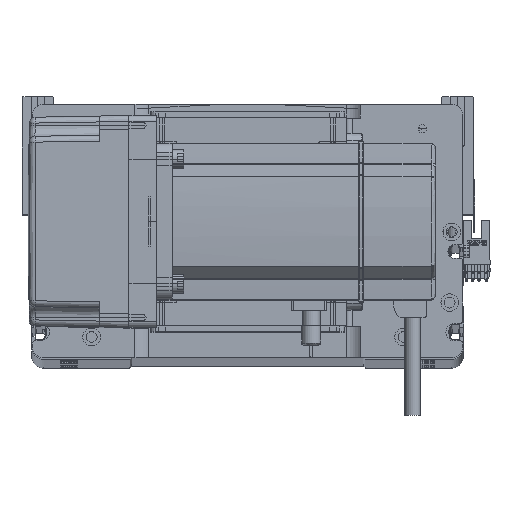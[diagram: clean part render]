
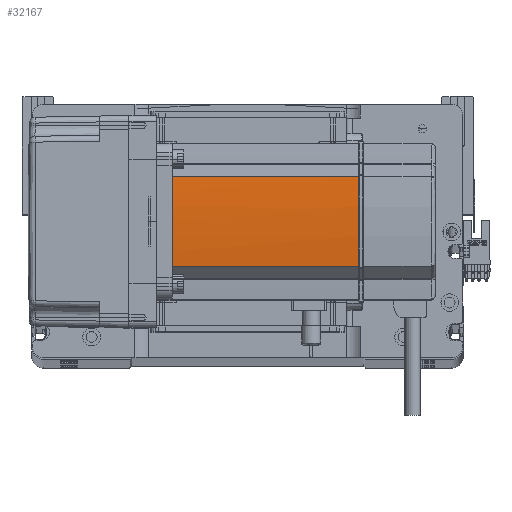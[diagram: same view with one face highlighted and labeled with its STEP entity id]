
A CAD part, top view. The second image highlights one B-rep face of the part: STEP entity #32167.
In plain terms, the highlighted cylindrical face has radius 270 mm (diameter 540 mm), a partial arc.
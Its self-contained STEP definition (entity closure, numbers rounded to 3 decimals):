
#167 = CARTESIAN_POINT ( 'NONE',  ( 39.042, -22.724, 134. ) ) ;
#245 = DIRECTION ( 'NONE',  ( -1., 0., 0. ) ) ;
#802 = DIRECTION ( 'NONE',  ( 0., 0., -1. ) ) ;
#1936 = AXIS2_PLACEMENT_3D ( 'NONE', #26898, #802, #245 ) ;
#3501 = CARTESIAN_POINT ( 'NONE',  ( -230., 0., 134. ) ) ;
#5978 = ORIENTED_EDGE ( 'NONE', *, *, #52524, .F. ) ;
#7716 = DIRECTION ( 'NONE',  ( 0., 0., -1. ) ) ;
#8095 = VERTEX_POINT ( 'NONE', #54279 ) ;
#8223 = CARTESIAN_POINT ( 'NONE',  ( 40., 0.042, 134. ) ) ;
#8399 = DIRECTION ( 'NONE',  ( -1., 0., 0. ) ) ;
#10270 = EDGE_CURVE ( 'NONE', #34948, #50140, #13889, .T. ) ;
#12095 = EDGE_LOOP ( 'NONE', ( #45029, #5978, #31340, #52579, #28581, #31973 ) ) ;
#12209 = DIRECTION ( 'NONE',  ( 0., 0., -1. ) ) ;
#12841 = LINE ( 'NONE', #14074, #21785 ) ;
#12970 = CIRCLE ( 'NONE', #56058, 270. ) ;
#13080 = AXIS2_PLACEMENT_3D ( 'NONE', #30089, #24943, #55598 ) ;
#13190 = EDGE_CURVE ( 'NONE', #25956, #34948, #12970, .T. ) ;
#13889 = LINE ( 'NONE', #35106, #45551 ) ;
#14074 = CARTESIAN_POINT ( 'NONE',  ( 39.042, 22.724, 58. ) ) ;
#15991 = B_SPLINE_CURVE_WITH_KNOTS ( 'NONE', 3,
 ( #38958, #47414, #8223, #29876 ),
 .UNSPECIFIED., .F., .F.,
 ( 4, 4 ),
 ( 0., 1. ),
 .UNSPECIFIED. ) ;
#20661 = CARTESIAN_POINT ( 'NONE',  ( -230., 0., 58. ) ) ;
#21785 = VECTOR ( 'NONE', #22942, 1000. ) ;
#22942 = DIRECTION ( 'NONE',  ( 0., 0., 1. ) ) ;
#22987 = CYLINDRICAL_SURFACE ( 'NONE', #35522, 270. ) ;
#24767 = CARTESIAN_POINT ( 'NONE',  ( 39.042, 22.724, 134. ) ) ;
#24943 = DIRECTION ( 'NONE',  ( 0., 0., -1. ) ) ;
#25257 = EDGE_CURVE ( 'NONE', #26485, #26336, #12841, .T. ) ;
#25956 = VERTEX_POINT ( 'NONE', #53710 ) ;
#26336 = VERTEX_POINT ( 'NONE', #24767 ) ;
#26485 = VERTEX_POINT ( 'NONE', #43181 ) ;
#26898 = CARTESIAN_POINT ( 'NONE',  ( -230., 0., 39. ) ) ;
#28581 = ORIENTED_EDGE ( 'NONE', *, *, #33945, .F. ) ;
#29876 = CARTESIAN_POINT ( 'NONE',  ( 40., 0.127, 134. ) ) ;
#30089 = CARTESIAN_POINT ( 'NONE',  ( -230., 0., 134. ) ) ;
#31266 = DIRECTION ( 'NONE',  ( 0., 0., -1. ) ) ;
#31340 = ORIENTED_EDGE ( 'NONE', *, *, #25257, .T. ) ;
#31973 = ORIENTED_EDGE ( 'NONE', *, *, #13190, .T. ) ;
#32167 = ADVANCED_FACE ( 'NONE', ( #55937 ), #22987, .T. ) ;
#32896 = CIRCLE ( 'NONE', #13080, 270. ) ;
#33237 = CIRCLE ( 'NONE', #1936, 270. ) ;
#33945 = EDGE_CURVE ( 'NONE', #25956, #8095, #15991, .T. ) ;
#34948 = VERTEX_POINT ( 'NONE', #167 ) ;
#35106 = CARTESIAN_POINT ( 'NONE',  ( 39.042, -22.724, 58. ) ) ;
#35522 = AXIS2_PLACEMENT_3D ( 'NONE', #20661, #12209, #8399 ) ;
#38958 = CARTESIAN_POINT ( 'NONE',  ( 40., -0.127, 134. ) ) ;
#41538 = CARTESIAN_POINT ( 'NONE',  ( 39.042, -22.724, 39. ) ) ;
#43181 = CARTESIAN_POINT ( 'NONE',  ( 39.042, 22.724, 39. ) ) ;
#45029 = ORIENTED_EDGE ( 'NONE', *, *, #10270, .T. ) ;
#45551 = VECTOR ( 'NONE', #31266, 1000. ) ;
#47091 = DIRECTION ( 'NONE',  ( -1., 0., 0. ) ) ;
#47414 = CARTESIAN_POINT ( 'NONE',  ( 40., -0.042, 134. ) ) ;
#50140 = VERTEX_POINT ( 'NONE', #41538 ) ;
#52524 = EDGE_CURVE ( 'NONE', #26485, #50140, #33237, .T. ) ;
#52579 = ORIENTED_EDGE ( 'NONE', *, *, #55570, .T. ) ;
#53710 = CARTESIAN_POINT ( 'NONE',  ( 40., -0.127, 134. ) ) ;
#54279 = CARTESIAN_POINT ( 'NONE',  ( 40., 0.127, 134. ) ) ;
#55570 = EDGE_CURVE ( 'NONE', #26336, #8095, #32896, .T. ) ;
#55598 = DIRECTION ( 'NONE',  ( -1., 0., 0. ) ) ;
#55937 = FACE_OUTER_BOUND ( 'NONE', #12095, .T. ) ;
#56058 = AXIS2_PLACEMENT_3D ( 'NONE', #3501, #7716, #47091 ) ;
